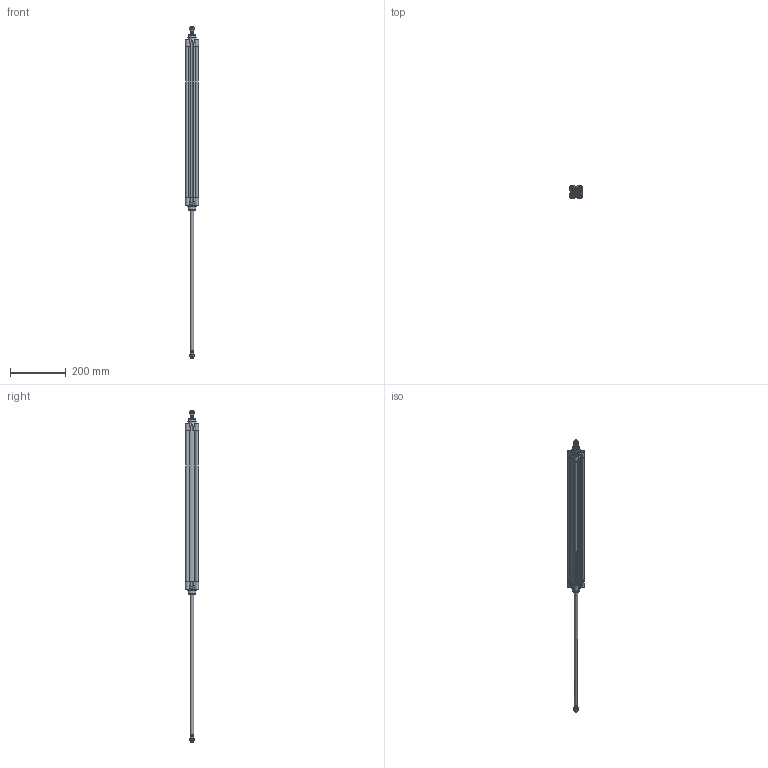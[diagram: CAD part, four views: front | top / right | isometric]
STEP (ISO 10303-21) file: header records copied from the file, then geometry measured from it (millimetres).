
FILE_DESCRIPTION(/* description */ ('Unknown'),/* implementation_level */ '2;1');
FILE_NAME(/* name */ 'HBF 32_500',/* time_stamp */ '2024-08-09T08:50:00+02:00',/* author */ ('Unknown'),/* organization */ ('Unknown'),/* preprocessor_version */ 'ST-DEVELOPER v16.7',/* originating_system */ 'Solid Edge',/* authorisation */ 'Unknown');
FILE_SCHEMA (('AUTOMOTIVE_DESIGN {1 0 10303 214 3 1 1}'));
Length unit declared in the file: millimetre
Products named in the file (6): HBF 32_500; Profilrohr 32_500; Mutter; Kolbenstange_1_32_500; Kit; Kolbenstange_2_32_500
Assembly tree (7 placements, depth 2):
  HBF 32_500
    Profilrohr 32_500
    Mutter  x2
    Kolbenstange_1_32_500
    Kit  x2
    Kolbenstange_2_32_500
Bounding box: 47 x 47 x 1190 mm (x, y, z)
Volume: 540872.1 mm3; surface area: 349242.1 mm2
Topology: 7 solids, 13 shells, 1031 faces, 2610 edges, 1695 vertices
Faces by surface type: cylinder 383, plane 352, cone 126, torus 84, bspline 66, sphere 20
Full cylindrical faces by diameter (mm): 2.1 x2, 4.917 x16, 6 x8, 6.2 x8, 7 x2, 7.9 x2, 7.991 x2, 8 x2, 8.56 x2, 8.566 x2, 8.647 x2, 10 x10, 10.3 x8, 11.6 x2, 11.804 x2, 12 x4, 12.8 x2, 12.847 x2, 16 x2, 22 x4, 28 x2, 30 x2, 32 x3
Entity records: 23573 total; most frequent: CARTESIAN_POINT 5561, ORIENTED_EDGE 3112, DIRECTION 2995, EDGE_CURVE 1556, AXIS2_PLACEMENT_3D 1182, VERTEX_POINT 1037, FACE_BOUND 731, EDGE_LOOP 727
